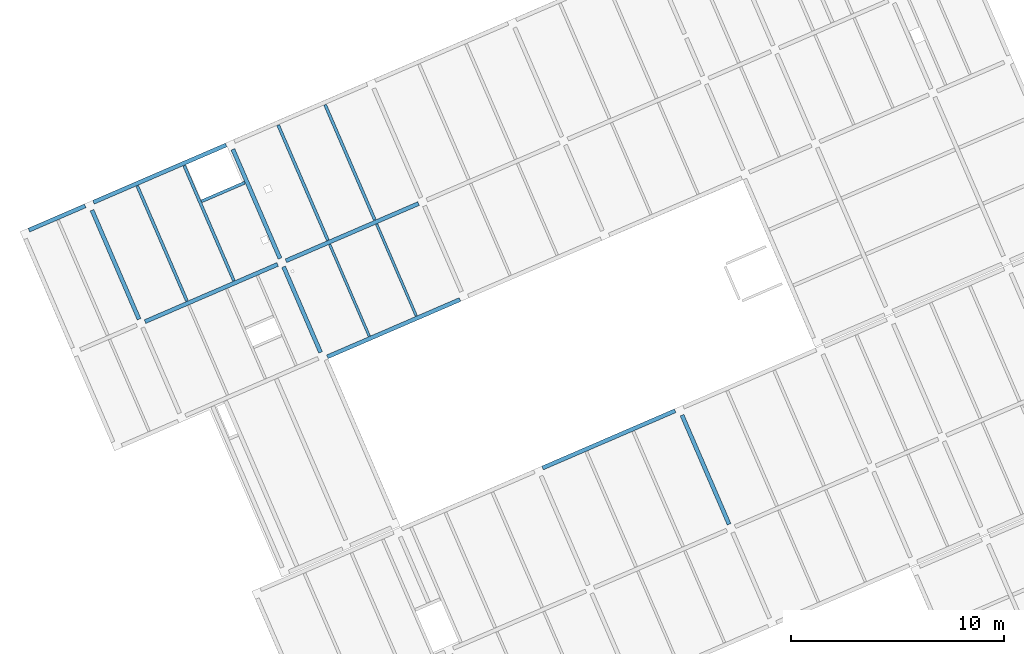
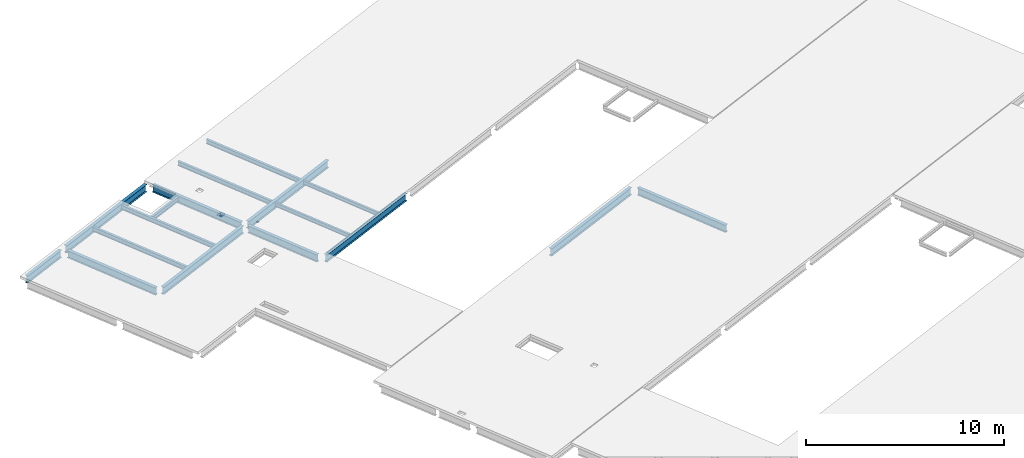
# One storey, part 9 of 15: 17 beams.
"""IFC4 building model written with IfcOpenShell, lengths in metres."""

from ifc_helpers import new_model, entity, si_unit, converted_unit, derived_unit, direction, frame, origin, place, context, subcontext, project, spatial, line, arc, indexed_curve, outline, extrude, source, transform, mapped, material, type_object, type_shapes, element, save


model = new_model("IFC4")

# Units and contexts
model_context = context("Model", 3, precision=1e-05, world=origin(), true_north=direction((6.12323399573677e-17, 1.0)))
body_context = subcontext(model_context, "Body", "Model", "MODEL_VIEW")
ifc_project = project(units=[si_unit("LENGTHUNIT", "METRE"), si_unit("AREAUNIT", "SQUARE_METRE"), si_unit("VOLUMEUNIT", "CUBIC_METRE"), converted_unit("PLANEANGLEUNIT", "DEGREE", entity("IfcPlaneAngleMeasure", 0.0174532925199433), si_unit("PLANEANGLEUNIT", "RADIAN"), dimensions=[0, 0, 0, 0, 0, 0, 0]), si_unit("MASSUNIT", "GRAM", prefix="KILO"), derived_unit("MOMENTOFINERTIAUNIT", [(si_unit("LENGTHUNIT", "METRE"), 4)]), derived_unit("LINEARFORCEUNIT", [(si_unit("MASSUNIT", "GRAM", prefix="KILO"), 1), (si_unit("TIMEUNIT", "SECOND"), -2)]), derived_unit("WARPINGCONSTANTUNIT", [(si_unit("LENGTHUNIT", "METRE"), 6)]), derived_unit("THERMALTRANSMITTANCEUNIT", [(si_unit("MASSUNIT", "GRAM", prefix="KILO"), 1), (si_unit("THERMODYNAMICTEMPERATUREUNIT", "KELVIN"), -1), (si_unit("TIMEUNIT", "SECOND"), -3)]), derived_unit("USERDEFINED", [(si_unit("MASSUNIT", "GRAM", prefix="KILO"), 1), (si_unit("TIMEUNIT", "SECOND"), -2), (si_unit("THERMODYNAMICTEMPERATUREUNIT", "KELVIN"), -1)]), derived_unit("THERMALRESISTANCEUNIT", [(si_unit("MASSUNIT", "GRAM", prefix="KILO"), -1), (si_unit("TIMEUNIT", "SECOND"), 3), (si_unit("THERMODYNAMICTEMPERATUREUNIT", "KELVIN"), 1)])], contexts=[model_context])

# Site, building, storey
site_placement = place(None, origin())
site = spatial("IfcSite", under=ifc_project, at=site_placement, Name="Default", CompositionType="ELEMENT")
building_placement = place(site_placement, frame((12.6613425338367, -82.5732315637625, 317.15), z_axis=(0.0, 0.0, 1.0), x_axis=(-0.396377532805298, 0.918087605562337, 0.0)))
building = spatial("IfcBuilding", under=site, at=building_placement, Name="CESFAM Coyhaique", CompositionType="ELEMENT")
storey_placement = place(building_placement, frame((0.0, 0.0, 8.45000000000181)))
storey = spatial("IfcBuildingStorey", under=building, at=storey_placement, Name="Nivel 3", CompositionType="ELEMENT", Elevation=8.45000000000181)

# Beams
ifc_material = material(Name="Steel, 45-345", Category="Metal")
beam_type_1 = type_object("IfcBeamType", Name="M_W Shapes:W450X190mm", PredefinedType="BEAM", material=ifc_material)
shared_shape_1 = source(origin(), body_context, "Body", "SweptSolid", [
    extrude(outline(indexed_curve([(-0.0950000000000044, -0.225000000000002), (0.0949999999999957, -0.225000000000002), (0.0950000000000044, -0.215350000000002), (0.0105699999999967, -0.215350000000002), (0.00516063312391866, -0.213109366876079), (0.0029200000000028, -0.207700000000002), (0.00291999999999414, 0.207699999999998), (0.00516063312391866, 0.213109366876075), (0.0105699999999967, 0.215349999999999), (0.0949999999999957, 0.215349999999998), (0.0949999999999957, 0.224999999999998), (-0.0950000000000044, 0.224999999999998), (-0.0950000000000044, 0.215349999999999), (-0.0105700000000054, 0.215349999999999), (-0.00516063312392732, 0.213109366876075), (-0.0029200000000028, 0.207699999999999), (-0.0029200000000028, -0.207700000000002), (-0.00516063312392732, -0.213109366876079), (-0.0105699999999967, -0.215350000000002), (-0.0950000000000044, -0.215350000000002)], segments=[line(1, 2, 3, 4), arc(4, 5, 6), line(6, 7), arc(7, 8, 9), line(9, 10, 11, 12, 13, 14), arc(14, 15, 16), line(16, 17), arc(17, 18, 19), line(19, 20, 1)], self_intersect=False)), frame((43.6638534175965, 3.0155504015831, 8.07500000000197), z_axis=(0.0, 1.0, 0.0), x_axis=(-1.0, 0.0, 0.0)), (0.0, 0.0, 1.0), 6.7746),
])
type_shapes(beam_type_1, [shared_shape_1])
beam_1_placement = place(storey_placement, frame((0.0, 0.0, -8.45000000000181)))
element("IfcBeam", 1, at=beam_1_placement, inside=storey, type_object=beam_type_1, Name="M_W Shapes:W450X190mm", ObjectType="M_W Shapes:W450X190mm", PredefinedType="BEAM", context=body_context, shape_type="MappedRepresentation", body=[
    mapped(shared_shape_1, transform((0.0, 0.0, 0.0), scale=1.0)),
])
beam_type_2 = type_object("IfcBeamType", Name="M_W Shapes:W450X190mm", PredefinedType="BEAM", material=ifc_material)
shared_shape_2 = source(origin(), body_context, "Body", "SweptSolid", [
    extrude(outline(indexed_curve([(-0.0950000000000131, -0.225000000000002), (0.0949999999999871, -0.225000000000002), (0.0949999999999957, -0.215350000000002), (0.0105699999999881, -0.215350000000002), (0.00516063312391, -0.213109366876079), (0.00291999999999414, -0.207700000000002), (0.00291999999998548, 0.207699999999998), (0.00516063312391, 0.213109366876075), (0.0105699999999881, 0.215349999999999), (0.0949999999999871, 0.215349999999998), (0.0949999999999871, 0.224999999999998), (-0.0950000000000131, 0.224999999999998), (-0.0950000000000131, 0.215349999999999), (-0.0105700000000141, 0.215349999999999), (-0.00516063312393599, 0.213109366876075), (-0.00292000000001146, 0.207699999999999), (-0.00292000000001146, -0.207700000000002), (-0.00516063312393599, -0.213109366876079), (-0.0105700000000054, -0.215350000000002), (-0.0950000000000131, -0.215350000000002)], segments=[line(1, 2, 3, 4), arc(4, 5, 6), line(6, 7), arc(7, 8, 9), line(9, 10, 11, 12, 13, 14), arc(14, 15, 16), line(16, 17), arc(17, 18, 19), line(19, 20, 1)], self_intersect=False)), frame((48.5688534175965, 3.0155504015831, 8.07500000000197), z_axis=(0.0, 1.0, 0.0), x_axis=(-1.0, 0.0, 0.0)), (0.0, 0.0, 1.0), 6.7746),
])
type_shapes(beam_type_2, [shared_shape_2])
beam_2_placement = place(storey_placement, frame((0.0, 0.0, -8.45000000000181)))
element("IfcBeam", 2, at=beam_2_placement, inside=storey, type_object=beam_type_2, Name="M_W Shapes:W450X190mm", ObjectType="M_W Shapes:W450X190mm", PredefinedType="BEAM", context=body_context, shape_type="MappedRepresentation", body=[
    mapped(shared_shape_2, transform((0.0, 0.0, 0.0), scale=1.0)),
])
beam_type_3 = type_object("IfcBeamType", Name="M_W Shapes:W450X190mm", PredefinedType="BEAM", material=ifc_material)
shared_shape_3 = source(origin(), body_context, "Body", "SweptSolid", [
    extrude(outline(indexed_curve([(-0.0949999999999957, -0.225000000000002), (0.0950000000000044, -0.225000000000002), (0.0950000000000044, -0.215350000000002), (0.0105700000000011, -0.215350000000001), (0.00516063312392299, -0.21310936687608), (0.0029200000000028, -0.207700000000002), (0.0029200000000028, 0.207699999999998), (0.00516063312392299, 0.213109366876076), (0.0105700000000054, 0.215349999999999), (0.0950000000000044, 0.215349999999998), (0.0950000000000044, 0.224999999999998), (-0.0949999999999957, 0.224999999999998), (-0.0949999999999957, 0.215349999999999), (-0.0105699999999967, 0.215349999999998), (-0.00516063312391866, 0.213109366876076), (-0.00291999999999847, 0.207699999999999), (-0.00291999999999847, -0.207700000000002), (-0.00516063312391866, -0.21310936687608), (-0.0105699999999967, -0.215350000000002), (-0.0949999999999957, -0.215350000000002)], segments=[line(1, 2, 3, 4), arc(4, 5, 6), line(6, 7), arc(7, 8, 9), line(9, 10, 11, 12, 13, 14), arc(14, 15, 16), line(16, 17), arc(17, 18, 19), line(19, 20, 1)], self_intersect=False)), frame((34.8738534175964, -4.18444959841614, 8.07500000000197), z_axis=(0.0, 1.0, 0.0), x_axis=(-1.0, 0.0, 0.0)), (0.0, 0.0, 1.0), 6.7746),
])
type_shapes(beam_type_3, [shared_shape_3])
beam_3_placement = place(storey_placement, frame((0.0, 0.0, -8.45000000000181)))
element("IfcBeam", 3, at=beam_3_placement, inside=storey, type_object=beam_type_3, Name="M_W Shapes:W450X190mm", ObjectType="M_W Shapes:W450X190mm", PredefinedType="BEAM", context=body_context, shape_type="MappedRepresentation", body=[
    mapped(shared_shape_3, transform((0.0, 0.0, 0.0), scale=1.0)),
])
beam_type_4 = type_object("IfcBeamType", Name="M_W Shapes:W450X190mm", PredefinedType="BEAM", material=ifc_material)
shared_shape_4 = source(origin(), body_context, "Body", "SweptSolid", [
    extrude(outline(indexed_curve([(-0.224999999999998, -0.0950000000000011), (-0.215349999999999, -0.0950000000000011), (-0.215349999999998, -0.0105700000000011), (-0.213109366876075, -0.00516063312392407), (-0.207699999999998, -0.00292000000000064), (0.207700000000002, -0.00292000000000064), (0.213109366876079, -0.00516063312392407), (0.215350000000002, -0.0105700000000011), (0.215350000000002, -0.0950000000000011), (0.225000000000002, -0.0950000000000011), (0.225000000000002, 0.0949999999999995), (0.215350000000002, 0.0949999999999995), (0.215350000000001, 0.0105699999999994), (0.213109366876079, 0.00516063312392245), (0.207700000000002, 0.00291999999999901), (-0.207699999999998, 0.00291999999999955), (-0.213109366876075, 0.00516063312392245), (-0.215349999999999, 0.0105699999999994), (-0.215349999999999, 0.094999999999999), (-0.224999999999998, 0.094999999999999)], segments=[line(1, 2, 3), arc(3, 4, 5), line(5, 6), arc(6, 7, 8), line(8, 9, 10, 11, 12, 13), arc(13, 14, 15), line(15, 16), arc(16, 17, 18), line(18, 19, 20, 1)], self_intersect=False)), frame((28.981553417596, -4.39714959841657, 8.07500000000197), z_axis=(1.0, 0.0, 0.0), x_axis=(0.0, 0.0, -1.0)), (0.0, 0.0, 1.0), 5.5746),
])
type_shapes(beam_type_4, [shared_shape_4])
beam_4_placement = place(storey_placement, frame((0.0, 0.0, -8.45000000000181)))
element("IfcBeam", 4, at=beam_4_placement, inside=storey, type_object=beam_type_4, Name="M_W Shapes:W450X190mm", ObjectType="M_W Shapes:W450X190mm", PredefinedType="BEAM", context=body_context, shape_type="MappedRepresentation", body=[
    mapped(shared_shape_4, transform((0.0, 0.0, 0.0), scale=1.0)),
])
beam_type_5 = type_object("IfcBeamType", Name="M_W Shapes:W450X190mm", PredefinedType="BEAM", material=ifc_material)
shared_shape_5 = source(origin(), body_context, "Body", "SweptSolid", [
    extrude(outline(indexed_curve([(-0.224999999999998, -0.0950000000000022), (-0.215349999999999, -0.0950000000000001), (-0.215349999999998, -0.0105700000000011), (-0.213109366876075, -0.00516063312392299), (-0.207699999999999, -0.00292000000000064), (0.207700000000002, -0.00292000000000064), (0.213109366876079, -0.00516063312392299), (0.215350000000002, -0.0105700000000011), (0.215350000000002, -0.0950000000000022), (0.225000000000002, -0.0950000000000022), (0.225000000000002, 0.0949999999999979), (0.215350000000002, 0.0949999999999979), (0.215350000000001, 0.0105699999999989), (0.213109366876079, 0.00516063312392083), (0.207700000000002, 0.00291999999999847), (-0.207699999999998, 0.00291999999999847), (-0.213109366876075, 0.00516063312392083), (-0.215349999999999, 0.0105699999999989), (-0.215349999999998, 0.0949999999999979), (-0.224999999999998, 0.0949999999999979)], segments=[line(1, 2, 3), arc(3, 4, 5), line(5, 6), arc(6, 7, 8), line(8, 9, 10, 11, 12, 13), arc(13, 14, 15), line(15, 16), arc(16, 17, 18), line(18, 19, 20, 1)], self_intersect=False)), frame((43.9815534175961, 10.0028504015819, 8.07500000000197), z_axis=(1.0, 0.0, 0.0), x_axis=(0.0, 0.0, -1.0)), (0.0, 0.0, 1.0), 4.3746),
])
type_shapes(beam_type_5, [shared_shape_5])
beam_5_placement = place(storey_placement, frame((0.0, 0.0, -8.45000000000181)))
element("IfcBeam", 5, at=beam_5_placement, inside=storey, type_object=beam_type_5, Name="M_W Shapes:W450X190mm", ObjectType="M_W Shapes:W450X190mm", PredefinedType="BEAM", context=body_context, shape_type="MappedRepresentation", body=[
    mapped(shared_shape_5, transform((0.0, 0.0, 0.0), scale=1.0)),
])
beam_type_6 = type_object("IfcBeamType", Name="M_W Shapes:W450X190mm", PredefinedType="BEAM", material=ifc_material)
shared_shape_6 = source(origin(), body_context, "Body", "SweptSolid", [
    extrude(outline(indexed_curve([(-0.224999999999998, -0.0950000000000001), (-0.215349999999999, -0.0950000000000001), (-0.215349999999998, -0.0105699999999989), (-0.213109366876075, -0.00516063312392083), (-0.207699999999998, -0.00291999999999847), (0.207700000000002, -0.00291999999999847), (0.213109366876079, -0.00516063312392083), (0.215350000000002, -0.0105699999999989), (0.215350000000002, -0.0950000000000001), (0.225000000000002, -0.0950000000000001), (0.225000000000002, 0.0950000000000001), (0.215350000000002, 0.0950000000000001), (0.215350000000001, 0.0105700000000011), (0.213109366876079, 0.00516063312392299), (0.207700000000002, 0.00292000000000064), (-0.207699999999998, 0.00292000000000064), (-0.213109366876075, 0.00516063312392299), (-0.215349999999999, 0.0105700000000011), (-0.215349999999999, 0.0950000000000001), (-0.224999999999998, 0.0950000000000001)], segments=[line(1, 2, 3), arc(3, 4, 5), line(5, 6), arc(6, 7, 8), line(8, 9, 10, 11, 12, 13), arc(13, 14, 15), line(15, 16), arc(16, 17, 18), line(18, 19, 20, 1)], self_intersect=False)), frame((48.7815534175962, 10.0028504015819, 8.07500000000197), z_axis=(1.0, 0.0, 0.0), x_axis=(0.0, 0.0, -1.0)), (0.0, 0.0, 1.0), 5.5746),
])
type_shapes(beam_type_6, [shared_shape_6])
beam_6_placement = place(storey_placement, frame((0.0, 0.0, -8.45000000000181)))
element("IfcBeam", 6, at=beam_6_placement, inside=storey, type_object=beam_type_6, Name="M_W Shapes:W450X190mm", ObjectType="M_W Shapes:W450X190mm", PredefinedType="BEAM", context=body_context, shape_type="MappedRepresentation", body=[
    mapped(shared_shape_6, transform((0.0, 0.0, 0.0), scale=1.0)),
])
beam_type_7 = type_object("IfcBeamType", Name="M_W Shapes:W450X190mm", PredefinedType="BEAM", material=ifc_material)
shared_shape_7 = source(origin(), body_context, "Body", "SweptSolid", [
    extrude(outline(indexed_curve([(-0.224999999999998, -0.0950000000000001), (-0.215349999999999, -0.0950000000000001), (-0.215349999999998, -0.0105699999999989), (-0.213109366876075, -0.00516063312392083), (-0.207699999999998, -0.00291999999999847), (0.207700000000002, -0.00291999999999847), (0.213109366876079, -0.00516063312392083), (0.215350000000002, -0.0105699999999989), (0.215350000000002, -0.0950000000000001), (0.225000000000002, -0.0950000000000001), (0.225000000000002, 0.0950000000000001), (0.215350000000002, 0.0950000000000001), (0.215350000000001, 0.0105700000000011), (0.213109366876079, 0.00516063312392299), (0.207700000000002, 0.00292000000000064), (-0.207699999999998, 0.00292000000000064), (-0.213109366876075, 0.00516063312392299), (-0.215349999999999, 0.0105700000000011), (-0.215349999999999, 0.0950000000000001), (-0.224999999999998, 0.0950000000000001)], segments=[line(1, 2, 3), arc(3, 4, 5), line(5, 6), arc(6, 7, 8), line(8, 9, 10, 11, 12, 13), arc(13, 14, 15), line(15, 16), arc(16, 17, 18), line(18, 19, 20, 1)], self_intersect=False)), frame((48.7815534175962, 17.2028504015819, 8.07500000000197), z_axis=(1.0, 0.0, 0.0), x_axis=(0.0, 0.0, -1.0)), (0.0, 0.0, 1.0), 5.5746),
])
type_shapes(beam_type_7, [shared_shape_7])
beam_7_placement = place(storey_placement, frame((0.0, 0.0, -8.45000000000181)))
element("IfcBeam", 7, at=beam_7_placement, inside=storey, type_object=beam_type_7, Name="M_W Shapes:W450X190mm", ObjectType="M_W Shapes:W450X190mm", PredefinedType="BEAM", context=body_context, shape_type="MappedRepresentation", body=[
    mapped(shared_shape_7, transform((0.0, 0.0, 0.0), scale=1.0)),
])
beam_type_8 = type_object("IfcBeamType", Name="M_W Shapes:W450X190mm", PredefinedType="BEAM", material=ifc_material)
shared_shape_8 = source(origin(), body_context, "Body", "SweptSolid", [
    extrude(outline(indexed_curve([(-0.0949999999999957, -0.225000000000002), (0.0950000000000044, -0.225000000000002), (0.0950000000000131, -0.215350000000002), (0.0105700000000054, -0.215350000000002), (0.00516063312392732, -0.213109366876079), (0.00292000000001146, -0.207700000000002), (0.0029200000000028, 0.207699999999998), (0.00516063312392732, 0.213109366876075), (0.0105700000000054, 0.215349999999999), (0.0950000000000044, 0.215349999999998), (0.0950000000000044, 0.224999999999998), (-0.0949999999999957, 0.224999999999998), (-0.0949999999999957, 0.215349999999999), (-0.0105699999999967, 0.215349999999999), (-0.00516063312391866, 0.213109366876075), (-0.00291999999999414, 0.207699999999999), (-0.00291999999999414, -0.207700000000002), (-0.00516063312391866, -0.213109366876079), (-0.0105699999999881, -0.215350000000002), (-0.0949999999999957, -0.215350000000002)], segments=[line(1, 2, 3, 4), arc(4, 5, 6), line(6, 7), arc(7, 8, 9), line(9, 10, 11, 12, 13, 14), arc(14, 15, 16), line(16, 17), arc(17, 18, 19), line(19, 20, 1)], self_intersect=False)), frame((48.5688534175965, 10.2155504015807, 8.07500000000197), z_axis=(0.0, 1.0, 0.0), x_axis=(-1.0, 0.0, 0.0)), (0.0, 0.0, 1.0), 6.7746),
])
type_shapes(beam_type_8, [shared_shape_8])
beam_8_placement = place(storey_placement, frame((0.0, 0.0, -8.45000000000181)))
element("IfcBeam", 8, at=beam_8_placement, inside=storey, type_object=beam_type_8, Name="M_W Shapes:W450X190mm", ObjectType="M_W Shapes:W450X190mm", PredefinedType="BEAM", context=body_context, shape_type="MappedRepresentation", body=[
    mapped(shared_shape_8, transform((0.0, 0.0, 0.0), scale=1.0)),
])
beam_type_9 = type_object("IfcBeamType", Name="M_W Shapes:W450X190mm", PredefinedType="BEAM", material=ifc_material)
shared_shape_9 = source(origin(), body_context, "Body", "SweptSolid", [
    extrude(outline(indexed_curve([(-0.0950000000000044, -0.225000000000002), (0.0949999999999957, -0.225000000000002), (0.0950000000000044, -0.215350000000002), (0.0105699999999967, -0.215350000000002), (0.00516063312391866, -0.213109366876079), (0.0029200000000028, -0.207700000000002), (0.00291999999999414, 0.207699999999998), (0.00516063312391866, 0.213109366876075), (0.0105699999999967, 0.215349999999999), (0.0949999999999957, 0.215349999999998), (0.0949999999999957, 0.224999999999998), (-0.0950000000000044, 0.224999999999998), (-0.0950000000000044, 0.215349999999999), (-0.0105700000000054, 0.215349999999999), (-0.00516063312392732, 0.213109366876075), (-0.0029200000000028, 0.207699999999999), (-0.0029200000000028, -0.207700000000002), (-0.00516063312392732, -0.213109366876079), (-0.0105699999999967, -0.215350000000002), (-0.0950000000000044, -0.215350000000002)], segments=[line(1, 2, 3, 4), arc(4, 5, 6), line(6, 7), arc(7, 8, 9), line(9, 10, 11, 12, 13, 14), arc(14, 15, 16), line(16, 17), arc(17, 18, 19), line(19, 20, 1)], self_intersect=False)), frame((54.6688534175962, 10.2155504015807, 8.07500000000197), z_axis=(0.0, 1.0, 0.0), x_axis=(-1.0, 0.0, 0.0)), (0.0, 0.0, 1.0), 6.7746),
])
type_shapes(beam_type_9, [shared_shape_9])
beam_9_placement = place(storey_placement, frame((0.0, 0.0, -8.45000000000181)))
element("IfcBeam", 9, at=beam_9_placement, inside=storey, type_object=beam_type_9, Name="M_W Shapes:W450X190mm", ObjectType="M_W Shapes:W450X190mm", PredefinedType="BEAM", context=body_context, shape_type="MappedRepresentation", body=[
    mapped(shared_shape_9, transform((0.0, 0.0, 0.0), scale=1.0)),
])
beam_type_10 = type_object("IfcBeamType", Name="M_W Shapes:W450X190mm", PredefinedType="BEAM", material=ifc_material)
shared_shape_10 = source(origin(), body_context, "Body", "SweptSolid", [
    extrude(outline(indexed_curve([(-0.0949999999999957, -0.225000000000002), (0.0950000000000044, -0.225000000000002), (0.0950000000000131, -0.215350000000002), (0.0105700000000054, -0.215350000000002), (0.00516063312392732, -0.213109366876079), (0.00292000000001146, -0.207700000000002), (0.0029200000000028, 0.207699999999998), (0.00516063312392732, 0.213109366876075), (0.0105700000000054, 0.215349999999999), (0.0950000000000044, 0.215349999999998), (0.0950000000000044, 0.224999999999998), (-0.0949999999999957, 0.224999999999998), (-0.0949999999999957, 0.215349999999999), (-0.0105699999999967, 0.215349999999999), (-0.00516063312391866, 0.213109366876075), (-0.00291999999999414, 0.207699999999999), (-0.00291999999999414, -0.207700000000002), (-0.00516063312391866, -0.213109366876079), (-0.0105699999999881, -0.215350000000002), (-0.0949999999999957, -0.215350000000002)], segments=[line(1, 2, 3, 4), arc(4, 5, 6), line(6, 7), arc(7, 8, 9), line(9, 10, 11, 12, 13, 14), arc(14, 15, 16), line(16, 17), arc(17, 18, 19), line(19, 20, 1)], self_intersect=False)), frame((54.6688534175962, 17.4156003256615, 8.07500000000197), z_axis=(0.0, 1.0, 0.0), x_axis=(-1.0, 0.0, 0.0)), (0.0, 0.0, 1.0), 2.8745),
])
type_shapes(beam_type_10, [shared_shape_10])
beam_10_placement = place(storey_placement, frame((0.0, 0.0, -8.45000000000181)))
element("IfcBeam", 10, at=beam_10_placement, inside=storey, type_object=beam_type_10, Name="M_W Shapes:W450X190mm", ObjectType="M_W Shapes:W450X190mm", PredefinedType="BEAM", context=body_context, shape_type="MappedRepresentation", body=[
    mapped(shared_shape_10, transform((0.0, 0.0, 0.0), scale=1.0)),
])
beam_type_11 = type_object("IfcBeamType", Name="M_W Shapes:W240X120mm", PredefinedType="BEAM", material=ifc_material)
shared_shape_11 = source(origin(), body_context, "Body", "SweptSolid", [
    extrude(outline(indexed_curve([(-0.12, -0.0599999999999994), (-0.110350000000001, -0.0599999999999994), (-0.110350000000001, -0.0105699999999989), (-0.108109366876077, -0.00516063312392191), (-0.1027, -0.00291999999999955), (0.102699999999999, -0.00291999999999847), (0.108109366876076, -0.00516063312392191), (0.110349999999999, -0.0105699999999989), (0.11035, -0.0599999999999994), (0.12, -0.0599999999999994), (0.12, 0.0600000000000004), (0.110349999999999, 0.0600000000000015), (0.11035, 0.0105700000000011), (0.108109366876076, 0.00516063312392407), (0.102699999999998, 0.00292000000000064), (-0.1027, 0.00292000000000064), (-0.108109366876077, 0.00516063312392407), (-0.110350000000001, 0.01057), (-0.11035, 0.0600000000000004), (-0.12, 0.0599999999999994)], segments=[line(1, 2, 3), arc(3, 4, 5), line(5, 6), arc(6, 7, 8), line(8, 9, 10, 11, 12, 13), arc(13, 14, 15), line(15, 16), arc(16, 17, 18), line(18, 19, 20, 1)], self_intersect=False)), frame((43.7715534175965, 5.2027298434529, 8.18000000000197), z_axis=(1.0, 0.0, 0.0), x_axis=(0.0, 0.0, -1.0)), (0.0, 0.0, 1.0), 4.6896),
])
type_shapes(beam_type_11, [shared_shape_11])
beam_11_placement = place(storey_placement, frame((0.0, 0.0, -8.45000000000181)))
element("IfcBeam", 11, at=beam_11_placement, inside=storey, type_object=beam_type_11, Name="M_W Shapes:W240X120mm", ObjectType="M_W Shapes:W240X120mm", PredefinedType="BEAM", context=body_context, shape_type="MappedRepresentation", body=[
    mapped(shared_shape_11, transform((0.0, 0.0, 0.0), scale=1.0)),
])
beam_type_12 = type_object("IfcBeamType", Name="M_W Shapes:W270X140mm", PredefinedType="BEAM", material=ifc_material)
shared_shape_12 = source(origin(), body_context, "Body", "SweptSolid", [
    extrude(outline(indexed_curve([(-0.135, -0.0700000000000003), (-0.125350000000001, -0.0700000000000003), (-0.125350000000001, -0.01057), (-0.123109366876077, -0.00516063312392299), (-0.1177, -0.00292000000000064), (0.117699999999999, -0.00291999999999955), (0.123109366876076, -0.00516063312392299), (0.12535, -0.01057), (0.12535, -0.0700000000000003), (0.135, -0.0700000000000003), (0.135, 0.0700000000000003), (0.12535, 0.0700000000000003), (0.12535, 0.01057), (0.123109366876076, 0.00516063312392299), (0.117699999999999, 0.00291999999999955), (-0.1177, 0.00291999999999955), (-0.123109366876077, 0.00516063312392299), (-0.125350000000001, 0.01057), (-0.125350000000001, 0.0699999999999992), (-0.135, 0.0699999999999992)], segments=[line(1, 2, 3), arc(3, 4, 5), line(5, 6), arc(6, 7, 8), line(8, 9, 10, 11, 12, 13), arc(13, 14, 15), line(15, 16), arc(16, 17, 18), line(18, 19, 20, 1)], self_intersect=False)), frame((48.6765534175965, 5.20272984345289, 8.16500000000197), z_axis=(1.0, 0.0, 0.0), x_axis=(0.0, 0.0, -1.0)), (0.0, 0.0, 1.0), 5.88460000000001),
])
type_shapes(beam_type_12, [shared_shape_12])
beam_12_placement = place(storey_placement, frame((0.0, 0.0, -8.45000000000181)))
element("IfcBeam", 12, at=beam_12_placement, inside=storey, type_object=beam_type_12, Name="M_W Shapes:W270X140mm", ObjectType="M_W Shapes:W270X140mm", PredefinedType="BEAM", context=body_context, shape_type="MappedRepresentation", body=[
    mapped(shared_shape_12, transform((0.0, 0.0, 0.0), scale=1.0)),
])
beam_type_13 = type_object("IfcBeamType", Name="M_W Shapes:W240X120mm", PredefinedType="BEAM", material=ifc_material)
shared_shape_13 = source(origin(), body_context, "Body", "SweptSolid", [
    extrude(outline(indexed_curve([(-0.12, -0.0599999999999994), (-0.110350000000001, -0.0599999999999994), (-0.110350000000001, -0.0105699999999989), (-0.108109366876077, -0.00516063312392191), (-0.1027, -0.00291999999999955), (0.102699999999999, -0.00291999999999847), (0.108109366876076, -0.00516063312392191), (0.110349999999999, -0.0105699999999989), (0.11035, -0.0599999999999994), (0.12, -0.0599999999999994), (0.12, 0.0600000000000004), (0.110349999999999, 0.0600000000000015), (0.11035, 0.0105700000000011), (0.108109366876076, 0.00516063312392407), (0.102699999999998, 0.00292000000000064), (-0.1027, 0.00292000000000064), (-0.108109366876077, 0.00516063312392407), (-0.110350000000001, 0.01057), (-0.11035, 0.0600000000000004), (-0.12, 0.0599999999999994)], segments=[line(1, 2, 3), arc(3, 4, 5), line(5, 6), arc(6, 7, 8), line(8, 9, 10, 11, 12, 13), arc(13, 14, 15), line(15, 16), arc(16, 17, 18), line(18, 19, 20, 1)], self_intersect=False)), frame((43.7715534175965, 7.60272984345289, 8.18000000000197), z_axis=(1.0, 0.0, 0.0), x_axis=(0.0, 0.0, -1.0)), (0.0, 0.0, 1.0), 4.6896),
])
type_shapes(beam_type_13, [shared_shape_13])
beam_13_placement = place(storey_placement, frame((0.0, 0.0, -8.45000000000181)))
element("IfcBeam", 13, at=beam_13_placement, inside=storey, type_object=beam_type_13, Name="M_W Shapes:W240X120mm", ObjectType="M_W Shapes:W240X120mm", PredefinedType="BEAM", context=body_context, shape_type="MappedRepresentation", body=[
    mapped(shared_shape_13, transform((0.0, 0.0, 0.0), scale=1.0)),
])
beam_type_14 = type_object("IfcBeamType", Name="M_W Shapes:W270X140mm", PredefinedType="BEAM", material=ifc_material)
shared_shape_14 = source(origin(), body_context, "Body", "SweptSolid", [
    extrude(outline(indexed_curve([(-0.135, -0.0699999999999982), (-0.125350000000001, -0.0699999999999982), (-0.125350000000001, -0.0105699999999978), (-0.123109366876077, -0.00516063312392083), (-0.1177, -0.00291999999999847), (0.117699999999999, -0.00291999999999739), (0.123109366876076, -0.00516063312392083), (0.12535, -0.0105699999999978), (0.12535, -0.0699999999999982), (0.135, -0.0699999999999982), (0.135, 0.0700000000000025), (0.12535, 0.0700000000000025), (0.12535, 0.0105700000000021), (0.123109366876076, 0.00516063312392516), (0.117699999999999, 0.00292000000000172), (-0.1177, 0.00292000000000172), (-0.123109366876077, 0.00516063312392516), (-0.125350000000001, 0.0105700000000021), (-0.125350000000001, 0.0700000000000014), (-0.135, 0.0700000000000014)], segments=[line(1, 2, 3), arc(3, 4, 5), line(5, 6), arc(6, 7, 8), line(8, 9, 10, 11, 12, 13), arc(13, 14, 15), line(15, 16), arc(16, 17, 18), line(18, 19, 20, 1)], self_intersect=False)), frame((48.6765534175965, 7.60272984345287, 8.16500000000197), z_axis=(1.0, 0.0, 0.0), x_axis=(0.0, 0.0, -1.0)), (0.0, 0.0, 1.0), 5.88460000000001),
])
type_shapes(beam_type_14, [shared_shape_14])
beam_14_placement = place(storey_placement, frame((0.0, 0.0, -8.45000000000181)))
element("IfcBeam", 14, at=beam_14_placement, inside=storey, type_object=beam_type_14, Name="M_W Shapes:W270X140mm", ObjectType="M_W Shapes:W270X140mm", PredefinedType="BEAM", context=body_context, shape_type="MappedRepresentation", body=[
    mapped(shared_shape_14, transform((0.0, 0.0, 0.0), scale=1.0)),
])
beam_type_15 = type_object("IfcBeamType", Name="M_W Shapes:W270X140mm", PredefinedType="BEAM", material=ifc_material)
shared_shape_15 = source(origin(), body_context, "Body", "SweptSolid", [
    extrude(outline(indexed_curve([(-0.135, -0.0700000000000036), (-0.125350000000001, -0.0700000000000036), (-0.12535, -0.0105700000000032), (-0.123109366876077, -0.00516063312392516), (-0.1177, -0.0029200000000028), (0.117699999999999, -0.0029200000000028), (0.123109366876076, -0.00516063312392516), (0.12535, -0.0105700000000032), (0.12535, -0.0700000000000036), (0.135, -0.0700000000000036), (0.135, 0.0699999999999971), (0.12535, 0.0699999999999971), (0.125349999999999, 0.0105699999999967), (0.123109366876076, 0.00516063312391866), (0.117699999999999, 0.0029199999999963), (-0.1177, 0.0029199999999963), (-0.123109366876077, 0.00516063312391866), (-0.125350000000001, 0.0105699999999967), (-0.125350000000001, 0.0699999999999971), (-0.135, 0.0699999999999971)], segments=[line(1, 2, 3), arc(3, 4, 5), line(5, 6), arc(6, 7, 8), line(8, 9, 10, 11, 12, 13), arc(13, 14, 15), line(15, 16), arc(16, 17, 18), line(18, 19, 20, 1)], self_intersect=False)), frame((48.6765534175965, 14.8025757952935, 8.16500000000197), z_axis=(1.0, 0.0, 0.0), x_axis=(0.0, 0.0, -1.0)), (0.0, 0.0, 1.0), 5.88460000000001),
])
type_shapes(beam_type_15, [shared_shape_15])
beam_15_placement = place(storey_placement, frame((0.0, 0.0, -8.45000000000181)))
element("IfcBeam", 15, at=beam_15_placement, inside=storey, type_object=beam_type_15, Name="M_W Shapes:W270X140mm", ObjectType="M_W Shapes:W270X140mm", PredefinedType="BEAM", context=body_context, shape_type="MappedRepresentation", body=[
    mapped(shared_shape_15, transform((0.0, 0.0, 0.0), scale=1.0)),
])
beam_type_16 = type_object("IfcBeamType", Name="M_W Shapes:W270X140mm", PredefinedType="BEAM", material=ifc_material)
shared_shape_16 = source(origin(), body_context, "Body", "SweptSolid", [
    extrude(outline(indexed_curve([(-0.135, -0.0699999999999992), (-0.125350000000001, -0.0699999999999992), (-0.12535, -0.0105699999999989), (-0.123109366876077, -0.00516063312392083), (-0.1177, -0.00291999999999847), (0.117699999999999, -0.00291999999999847), (0.123109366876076, -0.00516063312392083), (0.12535, -0.0105699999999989), (0.12535, -0.0699999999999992), (0.135, -0.0699999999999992), (0.135, 0.0700000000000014), (0.12535, 0.0700000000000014), (0.125349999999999, 0.0105700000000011), (0.123109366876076, 0.00516063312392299), (0.117699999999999, 0.00292000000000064), (-0.1177, 0.00292000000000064), (-0.123109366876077, 0.00516063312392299), (-0.125350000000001, 0.0105700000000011), (-0.125350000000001, 0.0699999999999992), (-0.135, 0.0699999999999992)], segments=[line(1, 2, 3), arc(3, 4, 5), line(5, 6), arc(6, 7, 8), line(8, 9, 10, 11, 12, 13), arc(13, 14, 15), line(15, 16), arc(16, 17, 18), line(18, 19, 20, 1)], self_intersect=False)), frame((48.6765534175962, 12.4027298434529, 8.16500000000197), z_axis=(1.0, 0.0, 0.0), x_axis=(0.0, 0.0, -1.0)), (0.0, 0.0, 1.0), 5.88460000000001),
])
type_shapes(beam_type_16, [shared_shape_16])
beam_16_placement = place(storey_placement, frame((0.0, 0.0, -8.45000000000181)))
element("IfcBeam", 16, at=beam_16_placement, inside=storey, type_object=beam_type_16, Name="M_W Shapes:W270X140mm", ObjectType="M_W Shapes:W270X140mm", PredefinedType="BEAM", context=body_context, shape_type="MappedRepresentation", body=[
    mapped(shared_shape_16, transform((0.0, 0.0, 0.0), scale=1.0)),
])
beam_type_17 = type_object("IfcBeamType", Name="M_W Shapes:W270X140mm", PredefinedType="BEAM", material=ifc_material)
shared_shape_17 = source(origin(), body_context, "Body", "SweptSolid", [
    extrude(outline(indexed_curve([(-0.0699999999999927, -0.135), (0.0700000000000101, -0.135), (0.0700000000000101, -0.12535), (0.0105700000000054, -0.12535), (0.00516063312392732, -0.123109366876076), (0.00292000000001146, -0.117699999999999), (0.0029200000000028, 0.1177), (0.00516063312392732, 0.123109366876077), (0.0105700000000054, 0.125350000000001), (0.0700000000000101, 0.125350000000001), (0.0700000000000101, 0.135), (-0.0699999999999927, 0.135), (-0.0699999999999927, 0.125350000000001), (-0.0105699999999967, 0.125350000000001), (-0.00516063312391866, 0.123109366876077), (-0.00291999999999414, 0.1177), (-0.00291999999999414, -0.117699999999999), (-0.00516063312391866, -0.123109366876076), (-0.0105699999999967, -0.12535), (-0.0699999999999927, -0.12535)], segments=[line(1, 2, 3, 4), arc(4, 5, 6), line(6, 7), arc(7, 8, 9), line(9, 10, 11, 12, 13, 14), arc(14, 15, 16), line(16, 17), arc(17, 18, 19), line(19, 20, 1)], self_intersect=False)), frame((52.6988534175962, 10.1105901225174, 8.16500000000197), z_axis=(0.0, 1.0, 0.0), x_axis=(-1.0, 0.0, 0.0)), (0.0, 0.0, 1.0), 2.2094),
])
type_shapes(beam_type_17, [shared_shape_17])
beam_17_placement = place(storey_placement, frame((0.0, 0.0, -8.45000000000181)))
element("IfcBeam", 17, at=beam_17_placement, inside=storey, type_object=beam_type_17, Name="M_W Shapes:W270X140mm", ObjectType="M_W Shapes:W270X140mm", PredefinedType="BEAM", context=body_context, shape_type="MappedRepresentation", body=[
    mapped(shared_shape_17, transform((0.0, 0.0, 0.0), scale=1.0)),
])

save(model, "model.ifc")
